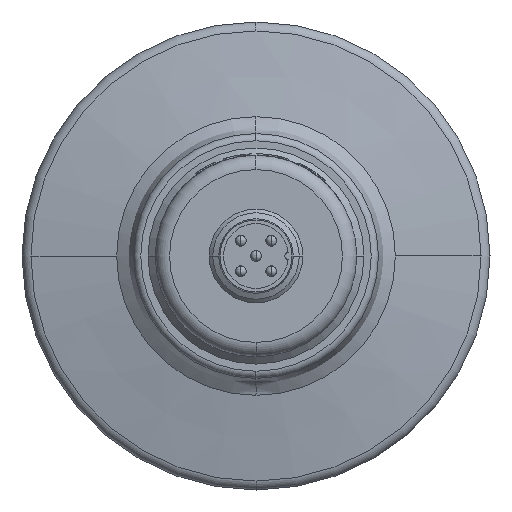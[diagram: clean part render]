
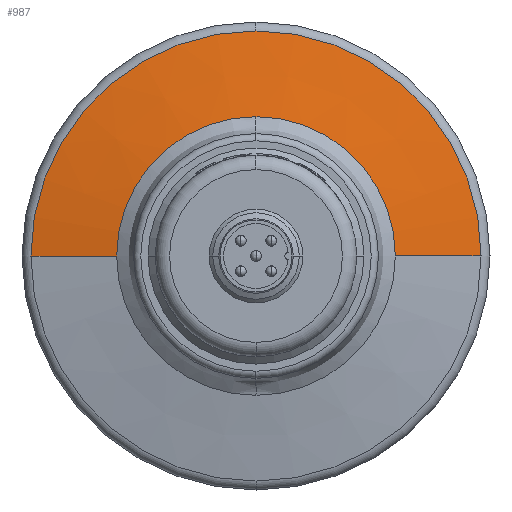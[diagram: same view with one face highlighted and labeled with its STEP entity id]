
A CAD part, left-side view. The second image highlights one B-rep face of the part: STEP entity #987.
In plain terms, the highlighted conical face has half-angle 80 degrees and reference radius 25.306 mm.
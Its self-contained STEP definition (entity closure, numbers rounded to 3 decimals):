
#108=CARTESIAN_POINT('',(-3.3,0.,19.351));
#109=VERTEX_POINT('',#108);
#117=CARTESIAN_POINT('',(-3.3,19.351,0.0));
#118=VERTEX_POINT('',#117);
#119=CARTESIAN_POINT('',(-3.3,0.0,0.0));
#120=DIRECTION('',(1.0,0.0,0.0));
#121=DIRECTION('',(0.0,1.0,0.0));
#122=AXIS2_PLACEMENT_3D('',#119,#120,#121);
#123=CIRCLE('',#122,19.351);
#124=EDGE_CURVE('',#118,#109,#123,.T.);
#206=CARTESIAN_POINT('',(-3.3,-19.351,0.));
#207=VERTEX_POINT('',#206);
#215=CARTESIAN_POINT('',(-3.3,0.0,0.0));
#216=DIRECTION('',(1.0,0.0,0.0));
#217=DIRECTION('',(0.0,1.0,0.0));
#218=AXIS2_PLACEMENT_3D('',#215,#216,#217);
#219=CIRCLE('',#218,19.351);
#220=EDGE_CURVE('',#109,#207,#219,.T.);
#920=CARTESIAN_POINT('',(-1.2,31.26,0.0));
#921=VERTEX_POINT('',#920);
#929=CARTESIAN_POINT('',(-1.2,0.,31.26));
#930=VERTEX_POINT('',#929);
#931=CARTESIAN_POINT('',(-1.2,0.0,0.0));
#932=DIRECTION('',(1.0,0.0,0.0));
#933=DIRECTION('',(0.0,1.0,0.0));
#934=AXIS2_PLACEMENT_3D('',#931,#932,#933);
#935=CIRCLE('',#934,31.26);
#936=EDGE_CURVE('',#921,#930,#935,.T.);
#956=CARTESIAN_POINT('',(-2.25,0.0,0.0));
#957=DIRECTION('',(1.0,0.0,0.0));
#958=DIRECTION('',(0.0,1.0,0.0));
#959=AXIS2_PLACEMENT_3D('',#956,#957,#958);
#960=CONICAL_SURFACE('',#959,25.306,80.);
#961=CARTESIAN_POINT('',(-3.3,19.351,0.0));
#962=DIRECTION('',(0.174,0.985,0.0));
#963=VECTOR('',#962,12.093);
#964=LINE('',#961,#963);
#965=EDGE_CURVE('',#118,#921,#964,.T.);
#966=ORIENTED_EDGE('',*,*,#965,.F.);
#967=ORIENTED_EDGE('',*,*,#124,.T.);
#968=ORIENTED_EDGE('',*,*,#220,.T.);
#969=CARTESIAN_POINT('',(-1.2,-31.26,0.));
#970=VERTEX_POINT('',#969);
#971=CARTESIAN_POINT('',(-1.2,-31.26,0.));
#972=DIRECTION('',(-0.174,0.985,0.));
#973=VECTOR('',#972,12.093);
#974=LINE('',#971,#973);
#975=EDGE_CURVE('',#970,#207,#974,.T.);
#976=ORIENTED_EDGE('',*,*,#975,.F.);
#977=CARTESIAN_POINT('',(-1.2,0.0,0.0));
#978=DIRECTION('',(1.0,0.0,0.0));
#979=DIRECTION('',(0.0,1.0,0.0));
#980=AXIS2_PLACEMENT_3D('',#977,#978,#979);
#981=CIRCLE('',#980,31.26);
#982=EDGE_CURVE('',#930,#970,#981,.T.);
#983=ORIENTED_EDGE('',*,*,#982,.F.);
#984=ORIENTED_EDGE('',*,*,#936,.F.);
#985=EDGE_LOOP('',(#966,#967,#968,#976,#983,#984));
#986=FACE_OUTER_BOUND('',#985,.T.);
#987=ADVANCED_FACE('',(#986),#960,.T.);
